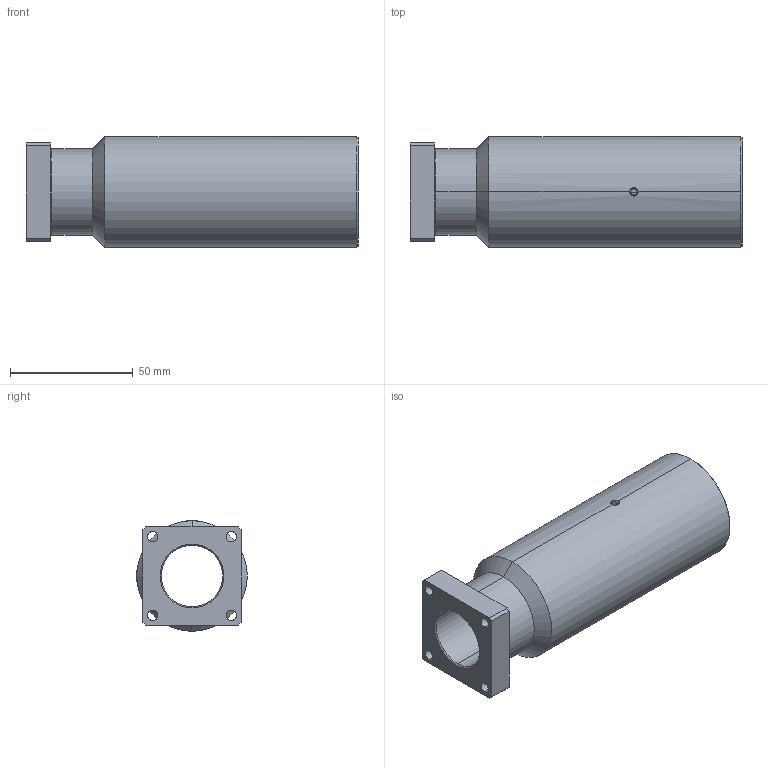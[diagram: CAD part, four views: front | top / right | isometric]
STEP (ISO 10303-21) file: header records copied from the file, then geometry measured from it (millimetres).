
FILE_DESCRIPTION (( 'STEP AP214' ), '1' );
FILE_NAME ('PT-M05197_REV_A.STEP', '2016-08-17T13:57:39', ( '' ), ( '' ), 'SwSTEP 2.0', 'SolidWorks 2014', '' );
FILE_SCHEMA (( 'AUTOMOTIVE_DESIGN' ));
Length unit declared in the file: millimetre
Products named in the file (1): PT-M05197_REV_A
Bounding box: 135 x 45 x 45 mm (x, y, z)
Volume: 86181.9 mm3; surface area: 35995.3 mm2
Topology: 1 solids, 1 shells, 54 faces, 132 edges, 80 vertices
Faces by surface type: cylinder 22, cone 16, plane 12, torus 4
Entity records: 1844 total; most frequent: CARTESIAN_POINT 449, DIRECTION 286, ORIENTED_EDGE 264, EDGE_CURVE 132, AXIS2_PLACEMENT_3D 111, VERTEX_POINT 80, EDGE_LOOP 68, LINE 64
